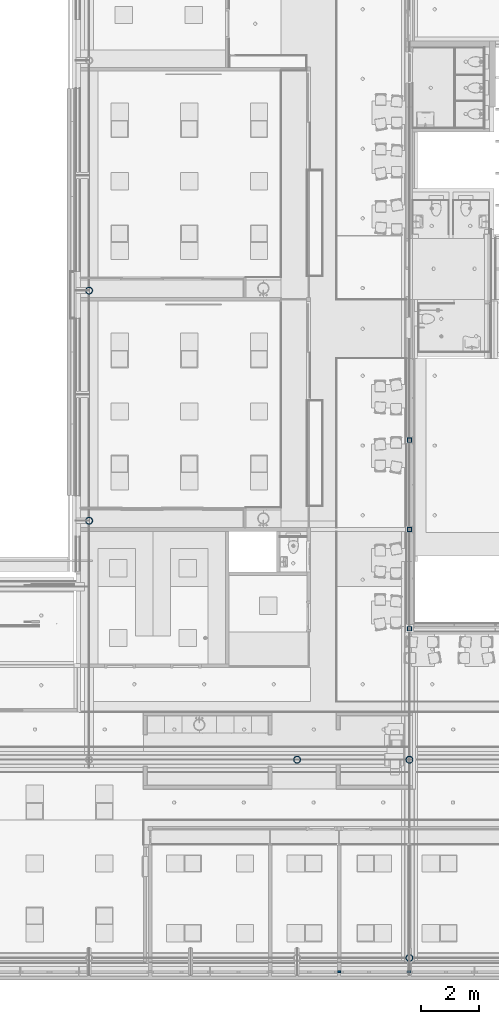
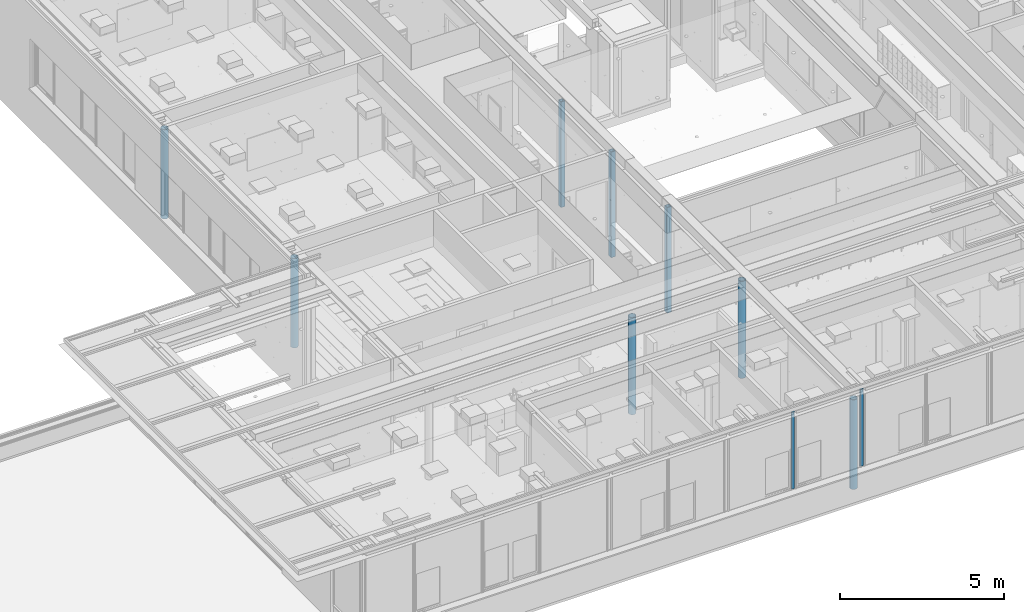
# One storey, part 8 of 260: 10 columns.
"""IFC2X3 building model written with IfcOpenShell, lengths in millimetres."""

from ifc_helpers import new_model, entity, si_unit, converted_unit, derived_unit, money_unit, direction, frame, origin_with_axes, place, context, subcontext, project, spatial, faceted_brep, material, type_object, element, save


model = new_model("IFC2X3")

# Units and contexts
model_context = context("Model", 3, precision=0.01, world=origin_with_axes(), true_north=direction((0.0, 1.0)))
plan_context = context("Plan", 3, precision=0.01, world=origin_with_axes(), true_north=direction((0.0, 1.0)))
body_context = subcontext(model_context, "Body", "Model", "MODEL_VIEW")
ifc_project = project(units=[si_unit("LENGTHUNIT", "METRE", prefix="MILLI"), si_unit("AREAUNIT", "SQUARE_METRE"), si_unit("VOLUMEUNIT", "CUBIC_METRE"), converted_unit("PLANEANGLEUNIT", "DEGREE", entity("IfcPlaneAngleMeasure", 0.0174532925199), si_unit("PLANEANGLEUNIT", "RADIAN"), dimensions=[0, 0, 0, 0, 0, 0, 0]), money_unit("EUR"), converted_unit("TIMEUNIT", "Year", entity("IfcTimeMeasure", 31556926.0), si_unit("TIMEUNIT", "SECOND"), dimensions=[0, 0, 1, 0, 0, 0, 0]), si_unit("MASSUNIT", "GRAM", prefix="KILO"), si_unit("THERMODYNAMICTEMPERATUREUNIT", "DEGREE_CELSIUS"), si_unit("LUMINOUSINTENSITYUNIT", "LUMEN"), si_unit("ENERGYUNIT", "JOULE", prefix="MEGA"), derived_unit("THERMALCONDUCTANCEUNIT", [(si_unit("POWERUNIT", "WATT"), 1), (si_unit("LENGTHUNIT", "METRE"), -1), (si_unit("THERMODYNAMICTEMPERATUREUNIT", "KELVIN"), -1)]), derived_unit("SPECIFICHEATCAPACITYUNIT", [(si_unit("ENERGYUNIT", "JOULE"), 1), (si_unit("MASSUNIT", "GRAM", prefix="KILO"), -1), (si_unit("THERMODYNAMICTEMPERATUREUNIT", "KELVIN"), -1)]), derived_unit("MASSDENSITYUNIT", [(si_unit("MASSUNIT", "GRAM", prefix="KILO"), 1), (si_unit("VOLUMEUNIT", "CUBIC_METRE"), -1)])], contexts=[model_context, plan_context])

# Site, building, storey
site_placement = place(None, origin_with_axes())
site = spatial("IfcSite", under=ifc_project, at=site_placement, Name="Site", CompositionType="ELEMENT")
building_placement = place(site_placement, origin_with_axes())
building = spatial("IfcBuilding", under=site, at=building_placement, Name="Naam gebouw", CompositionType="ELEMENT")
storey_placement = place(building_placement, frame((0.0, 0.0, 3960.0), z_axis=(0.0, 0.0, 1.0), x_axis=(1.0, 0.0, 0.0)))
storey = spatial("IfcBuildingStorey", under=building, at=storey_placement, Name="verdieping", CompositionType="ELEMENT", Elevation=3960.0)

# Columns
ifc_material_1 = material(Name="Metaal - Staal C wit")
column_type_1 = type_object("IfcColumnType", Name="Lucht D245", PredefinedType="COLUMN")
column_1_placement = place(storey_placement, frame((31737.5, 12125.0, -80.0), z_axis=(0.0, 0.0, 1.0), x_axis=(1.0, 0.0, 0.0)))
element("IfcColumn", 1, at=column_1_placement, inside=storey, type_object=column_type_1, material=ifc_material_1, Name="28_kolom ø 273mm", ObjectType="COLUMN", context=body_context, shape_type="Brep", body=[
    faceted_brep([(119.184937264, 27.2031841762, 0.0), (110.143444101, 53.0422871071, 0.0), (110.143444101, 53.0422871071, 3620.0), (119.184937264, 27.2031841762, 3620.0), (122.25, 0.0, 0.0), (119.184937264, -27.2031841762, 0.0), (110.143444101, -53.0422871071, 0.0), (95.5788987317, -76.2216282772, 0.0), (76.2216282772, -95.5788987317, 0.0), (53.0422871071, -110.143444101, 0.0), (27.2031841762, -119.184937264, 0.0), (0.0, -122.25, 0.0), (-27.2031841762, -119.184937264, 0.0), (-53.0422871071, -110.143444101, 0.0), (-76.2216282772, -95.5788987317, 0.0), (-95.5788987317, -76.2216282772, 0.0), (-110.143444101, -53.0422871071, 0.0), (-119.184937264, -27.2031841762, 0.0), (-122.25, 0.0, 0.0), (-119.184937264, 27.2031841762, 0.0), (-110.143444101, 53.0422871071, 0.0), (-95.5788987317, 76.2216282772, 0.0), (-76.2216282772, 95.5788987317, 0.0), (-53.0422871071, 110.143444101, 0.0), (-27.2031841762, 119.184937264, 0.0), (0.0, 122.25, 0.0), (27.2031841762, 119.184937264, 0.0), (53.0422871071, 110.143444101, 0.0), (76.2216282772, 95.5788987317, 0.0), (95.5788987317, 76.2216282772, 0.0), (102.629619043, -27.4995235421, 0.0), (106.25, 0.0, 0.0), (102.629619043, 27.4995235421, 0.0), (92.0151991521, 53.125, 0.0), (75.1300955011, 75.1300955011, 0.0), (53.125, 92.0151991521, 0.0), (27.4995235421, 102.629619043, 0.0), (0.0, 106.25, 0.0), (-27.4995235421, 102.629619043, 0.0), (-53.125, 92.0151991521, 0.0), (-75.1300955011, 75.1300955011, 0.0), (-92.0151991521, 53.125, 0.0), (-102.629619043, 27.4995235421, 0.0), (-106.25, 0.0, 0.0), (-102.629619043, -27.4995235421, 0.0), (-92.0151991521, -53.125, 0.0), (-75.1300955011, -75.1300955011, 0.0), (-53.125, -92.0151991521, 0.0), (-27.4995235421, -102.629619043, 0.0), (0.0, -106.25, 0.0), (27.4995235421, -102.629619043, 0.0), (53.125, -92.0151991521, 0.0), (75.1300955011, -75.1300955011, 0.0), (92.0151991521, -53.125, 0.0), (95.5788987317, 76.2216282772, 3620.0), (76.2216282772, 95.5788987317, 3620.0), (53.0422871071, 110.143444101, 3620.0), (27.2031841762, 119.184937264, 3620.0), (0.0, 122.25, 3620.0), (-27.2031841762, 119.184937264, 3620.0), (-53.0422871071, 110.143444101, 3620.0), (-76.2216282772, 95.5788987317, 3620.0), (-95.5788987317, 76.2216282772, 3620.0), (-110.143444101, 53.0422871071, 3620.0), (-119.184937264, 27.2031841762, 3620.0), (-122.25, 0.0, 3620.0), (-119.184937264, -27.2031841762, 3620.0), (-110.143444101, -53.0422871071, 3620.0), (-95.5788987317, -76.2216282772, 3620.0), (-76.2216282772, -95.5788987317, 3620.0), (-53.0422871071, -110.143444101, 3620.0), (-27.2031841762, -119.184937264, 3620.0), (0.0, -122.25, 3620.0), (27.2031841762, -119.184937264, 3620.0), (53.0422871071, -110.143444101, 3620.0), (76.2216282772, -95.5788987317, 3620.0), (95.5788987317, -76.2216282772, 3620.0), (110.143444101, -53.0422871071, 3620.0), (119.184937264, -27.2031841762, 3620.0), (122.25, 0.0, 3620.0), (102.629619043, -27.4995235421, 3620.0), (92.0151991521, -53.125, 3620.0), (75.1300955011, -75.1300955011, 3620.0), (53.125, -92.0151991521, 3620.0), (27.4995235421, -102.629619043, 3620.0), (0.0, -106.25, 3620.0), (-27.4995235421, -102.629619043, 3620.0), (-53.125, -92.0151991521, 3620.0), (-75.1300955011, -75.1300955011, 3620.0), (-92.0151991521, -53.125, 3620.0), (-102.629619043, -27.4995235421, 3620.0), (-106.25, 0.0, 3620.0), (-102.629619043, 27.4995235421, 3620.0), (-92.0151991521, 53.125, 3620.0), (-75.1300955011, 75.1300955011, 3620.0), (-53.125, 92.0151991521, 3620.0), (-27.4995235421, 102.629619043, 3620.0), (0.0, 106.25, 3620.0), (27.4995235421, 102.629619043, 3620.0), (53.125, 92.0151991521, 3620.0), (75.1300955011, 75.1300955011, 3620.0), (92.0151991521, 53.125, 3620.0), (102.629619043, 27.4995235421, 3620.0), (106.25, 0.0, 3620.0)], [[[0, 1, 2, 3]], [[0, 4, 5, 6, 7, 8, 9, 10, 11, 12, 13, 14, 15, 16, 17, 18, 19, 20, 21, 22, 23, 24, 25, 26, 27, 28, 29, 1], [30, 31, 32, 33, 34, 35, 36, 37, 38, 39, 40, 41, 42, 43, 44, 45, 46, 47, 48, 49, 50, 51, 52, 53]], [[1, 29, 54, 2]], [[3, 2, 54, 55, 56, 57, 58, 59, 60, 61, 62, 63, 64, 65, 66, 67, 68, 69, 70, 71, 72, 73, 74, 75, 76, 77, 78, 79], [80, 81, 82, 83, 84, 85, 86, 87, 88, 89, 90, 91, 92, 93, 94, 95, 96, 97, 98, 99, 100, 101, 102, 103]], [[4, 0, 3, 79]], [[5, 4, 79, 78]], [[6, 5, 78, 77]], [[7, 6, 77, 76]], [[8, 7, 76, 75]], [[9, 8, 75, 74]], [[10, 9, 74, 73]], [[11, 10, 73, 72]], [[12, 11, 72, 71]], [[13, 12, 71, 70]], [[14, 13, 70, 69]], [[15, 14, 69, 68]], [[16, 15, 68, 67]], [[17, 16, 67, 66]], [[18, 17, 66, 65]], [[19, 18, 65, 64]], [[20, 19, 64, 63]], [[21, 20, 63, 62]], [[22, 21, 62, 61]], [[23, 22, 61, 60]], [[24, 23, 60, 59]], [[25, 24, 59, 58]], [[26, 25, 58, 57]], [[27, 26, 57, 56]], [[28, 27, 56, 55]], [[29, 28, 55, 54]], [[31, 30, 80, 103]], [[32, 31, 103, 102]], [[33, 32, 102, 101]], [[34, 33, 101, 100]], [[35, 34, 100, 99]], [[36, 35, 99, 98]], [[37, 36, 98, 97]], [[38, 37, 97, 96]], [[39, 38, 96, 95]], [[40, 39, 95, 94]], [[41, 40, 94, 93]], [[42, 41, 93, 92]], [[43, 42, 92, 91]], [[44, 43, 91, 90]], [[45, 44, 90, 89]], [[46, 45, 89, 88]], [[47, 46, 88, 87]], [[48, 47, 87, 86]], [[49, 48, 86, 85]], [[50, 49, 85, 84]], [[51, 50, 84, 83]], [[52, 51, 83, 82]], [[53, 52, 82, 81]], [[30, 53, 81, 80]]]),
])
column_2_placement = place(storey_placement, frame((35605.0, 5300.0, -80.0), z_axis=(0.0, 0.0, 1.0), x_axis=(1.0, 0.0, 0.0)))
element("IfcColumn", 2, at=column_2_placement, inside=storey, type_object=column_type_1, material=ifc_material_1, Name="28_kolom ø 273mm", ObjectType="COLUMN", context=body_context, shape_type="Brep", body=[
    faceted_brep([(119.184937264, 27.2031841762, 0.0), (110.143444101, 53.0422871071, 0.0), (110.143444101, 53.0422871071, 3340.0), (119.184937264, 27.2031841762, 3340.0), (122.25, 0.0, 0.0), (119.184937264, -27.2031841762, 0.0), (110.143444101, -53.0422871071, 0.0), (95.5788987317, -76.2216282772, 0.0), (76.2216282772, -95.5788987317, 0.0), (53.0422871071, -110.143444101, 0.0), (27.2031841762, -119.184937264, 0.0), (0.0, -122.25, 0.0), (-27.2031841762, -119.184937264, 0.0), (-53.0422871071, -110.143444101, 0.0), (-76.2216282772, -95.5788987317, 0.0), (-95.5788987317, -76.2216282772, 0.0), (-110.143444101, -53.0422871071, 0.0), (-119.184937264, -27.2031841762, 0.0), (-122.25, 0.0, 0.0), (-119.184937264, 27.2031841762, 0.0), (-110.143444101, 53.0422871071, 0.0), (-95.5788987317, 76.2216282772, 0.0), (-76.2216282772, 95.5788987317, 0.0), (-53.0422871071, 110.143444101, 0.0), (-27.2031841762, 119.184937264, 0.0), (0.0, 122.25, 0.0), (27.2031841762, 119.184937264, 0.0), (53.0422871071, 110.143444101, 0.0), (76.2216282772, 95.5788987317, 0.0), (95.5788987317, 76.2216282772, 0.0), (102.629619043, -27.4995235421, 0.0), (106.25, 0.0, 0.0), (102.629619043, 27.4995235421, 0.0), (92.0151991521, 53.125, 0.0), (75.1300955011, 75.1300955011, 0.0), (53.125, 92.0151991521, 0.0), (27.4995235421, 102.629619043, 0.0), (0.0, 106.25, 0.0), (-27.4995235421, 102.629619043, 0.0), (-53.125, 92.0151991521, 0.0), (-75.1300955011, 75.1300955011, 0.0), (-92.0151991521, 53.125, 0.0), (-102.629619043, 27.4995235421, 0.0), (-106.25, 0.0, 0.0), (-102.629619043, -27.4995235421, 0.0), (-92.0151991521, -53.125, 0.0), (-75.1300955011, -75.1300955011, 0.0), (-53.125, -92.0151991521, 0.0), (-27.4995235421, -102.629619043, 0.0), (0.0, -106.25, 0.0), (27.4995235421, -102.629619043, 0.0), (53.125, -92.0151991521, 0.0), (75.1300955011, -75.1300955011, 0.0), (92.0151991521, -53.125, 0.0), (95.5788987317, 76.2216282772, 3340.0), (76.2216282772, 95.5788987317, 3340.0), (53.0422871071, 110.143444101, 3340.0), (27.2031841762, 119.184937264, 3340.0), (0.0, 122.25, 3340.0), (-27.2031841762, 119.184937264, 3340.0), (-53.0422871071, 110.143444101, 3340.0), (-76.2216282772, 95.5788987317, 3340.0), (-95.5788987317, 76.2216282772, 3340.0), (-110.143444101, 53.0422871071, 3340.0), (-119.184937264, 27.2031841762, 3340.0), (-122.25, 0.0, 3340.0), (-119.184937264, -27.2031841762, 3340.0), (-110.143444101, -53.0422871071, 3340.0), (-95.5788987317, -76.2216282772, 3340.0), (-76.2216282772, -95.5788987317, 3340.0), (-53.0422871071, -110.143444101, 3340.0), (-27.2031841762, -119.184937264, 3340.0), (0.0, -122.25, 3340.0), (27.2031841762, -119.184937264, 3340.0), (53.0422871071, -110.143444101, 3340.0), (76.2216282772, -95.5788987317, 3340.0), (95.5788987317, -76.2216282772, 3340.0), (110.143444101, -53.0422871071, 3340.0), (119.184937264, -27.2031841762, 3340.0), (122.25, 0.0, 3340.0), (102.629619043, -27.4995235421, 3340.0), (92.0151991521, -53.125, 3340.0), (75.1300955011, -75.1300955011, 3340.0), (53.125, -92.0151991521, 3340.0), (27.4995235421, -102.629619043, 3340.0), (0.0, -106.25, 3340.0), (-27.4995235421, -102.629619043, 3340.0), (-53.125, -92.0151991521, 3340.0), (-75.1300955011, -75.1300955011, 3340.0), (-92.0151991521, -53.125, 3340.0), (-102.629619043, -27.4995235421, 3340.0), (-106.25, 0.0, 3340.0), (-102.629619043, 27.4995235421, 3340.0), (-92.0151991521, 53.125, 3340.0), (-75.1300955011, 75.1300955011, 3340.0), (-53.125, 92.0151991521, 3340.0), (-27.4995235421, 102.629619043, 3340.0), (0.0, 106.25, 3340.0), (27.4995235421, 102.629619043, 3340.0), (53.125, 92.0151991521, 3340.0), (75.1300955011, 75.1300955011, 3340.0), (92.0151991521, 53.125, 3340.0), (102.629619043, 27.4995235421, 3340.0), (106.25, 0.0, 3340.0)], [[[0, 1, 2, 3]], [[0, 4, 5, 6, 7, 8, 9, 10, 11, 12, 13, 14, 15, 16, 17, 18, 19, 20, 21, 22, 23, 24, 25, 26, 27, 28, 29, 1], [30, 31, 32, 33, 34, 35, 36, 37, 38, 39, 40, 41, 42, 43, 44, 45, 46, 47, 48, 49, 50, 51, 52, 53]], [[1, 29, 54, 2]], [[3, 2, 54, 55, 56, 57, 58, 59, 60, 61, 62, 63, 64, 65, 66, 67, 68, 69, 70, 71, 72, 73, 74, 75, 76, 77, 78, 79], [80, 81, 82, 83, 84, 85, 86, 87, 88, 89, 90, 91, 92, 93, 94, 95, 96, 97, 98, 99, 100, 101, 102, 103]], [[4, 0, 3, 79]], [[5, 4, 79, 78]], [[6, 5, 78, 77]], [[7, 6, 77, 76]], [[8, 7, 76, 75]], [[9, 8, 75, 74]], [[10, 9, 74, 73]], [[11, 10, 73, 72]], [[12, 11, 72, 71]], [[13, 12, 71, 70]], [[14, 13, 70, 69]], [[15, 14, 69, 68]], [[16, 15, 68, 67]], [[17, 16, 67, 66]], [[18, 17, 66, 65]], [[19, 18, 65, 64]], [[20, 19, 64, 63]], [[21, 20, 63, 62]], [[22, 21, 62, 61]], [[23, 22, 61, 60]], [[24, 23, 60, 59]], [[25, 24, 59, 58]], [[26, 25, 58, 57]], [[27, 26, 57, 56]], [[28, 27, 56, 55]], [[29, 28, 55, 54]], [[31, 30, 80, 103]], [[32, 31, 103, 102]], [[33, 32, 102, 101]], [[34, 33, 101, 100]], [[35, 34, 100, 99]], [[36, 35, 99, 98]], [[37, 36, 98, 97]], [[38, 37, 97, 96]], [[39, 38, 96, 95]], [[40, 39, 95, 94]], [[41, 40, 94, 93]], [[42, 41, 93, 92]], [[43, 42, 92, 91]], [[44, 43, 91, 90]], [[45, 44, 90, 89]], [[46, 45, 89, 88]], [[47, 46, 88, 87]], [[48, 47, 87, 86]], [[49, 48, 86, 85]], [[50, 49, 85, 84]], [[51, 50, 84, 83]], [[52, 51, 83, 82]], [[53, 52, 82, 81]], [[30, 53, 81, 80]]]),
])
column_3_placement = place(storey_placement, frame((24575.0, 20350.0, -70.0), z_axis=(0.0, 0.0, 1.0), x_axis=(1.0, 0.0, 0.0)))
element("IfcColumn", 3, at=column_3_placement, inside=storey, type_object=column_type_1, material=ifc_material_1, Name="28_kolom ø 273mm", ObjectType="COLUMN", context=body_context, shape_type="Brep", body=[
    faceted_brep([(-122.25, 0.0, 0.0), (-119.184937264, -27.2031841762, 0.0), (-119.184937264, -27.2031841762, 3330.0), (-122.25, 0.0, 3330.0), (-119.184937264, 27.2031841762, 0.0), (-110.143444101, 53.0422871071, 0.0), (-95.5788987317, 76.2216282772, 0.0), (-76.2216282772, 95.5788987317, 0.0), (-53.0422871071, 110.143444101, 0.0), (-27.2031841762, 119.184937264, 0.0), (0.0, 122.25, 0.0), (27.2031841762, 119.184937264, 0.0), (53.0422871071, 110.143444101, 0.0), (76.2216282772, 95.5788987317, 0.0), (95.5788987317, 76.2216282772, 0.0), (110.143444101, 53.0422871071, 0.0), (119.184937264, 27.2031841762, 0.0), (122.25, 0.0, 0.0), (119.184937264, -27.2031841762, 0.0), (110.143444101, -53.0422871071, 0.0), (95.5788987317, -76.2216282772, 0.0), (76.2216282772, -95.5788987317, 0.0), (53.0422871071, -110.143444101, 0.0), (27.2031841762, -119.184937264, 0.0), (0.0, -122.25, 0.0), (-27.2031841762, -119.184937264, 0.0), (-53.0422871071, -110.143444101, 0.0), (-76.2216282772, -95.5788987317, 0.0), (-95.5788987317, -76.2216282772, 0.0), (-110.143444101, -53.0422871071, 0.0), (-106.25, 0.0, 0.0), (-102.629619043, -27.4995235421, 0.0), (-92.0151991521, -53.125, 0.0), (-75.1300955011, -75.1300955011, 0.0), (-53.125, -92.0151991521, 0.0), (-27.4995235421, -102.629619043, 0.0), (0.0, -106.25, 0.0), (27.4995235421, -102.629619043, 0.0), (53.125, -92.0151991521, 0.0), (75.1300955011, -75.1300955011, 0.0), (92.0151991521, -53.125, 0.0), (102.629619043, -27.4995235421, 0.0), (106.25, 0.0, 0.0), (102.629619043, 27.4995235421, 0.0), (92.0151991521, 53.125, 0.0), (75.1300955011, 75.1300955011, 0.0), (53.125, 92.0151991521, 0.0), (27.4995235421, 102.629619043, 0.0), (0.0, 106.25, 0.0), (-27.4995235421, 102.629619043, 0.0), (-53.125, 92.0151991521, 0.0), (-75.1300955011, 75.1300955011, 0.0), (-92.0151991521, 53.125, 0.0), (-102.629619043, 27.4995235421, 0.0), (-110.143444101, -53.0422871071, 3330.0), (-95.5788987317, -76.2216282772, 3330.0), (-76.2216282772, -95.5788987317, 3330.0), (-53.0422871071, -110.143444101, 3330.0), (-27.2031841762, -119.184937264, 3330.0), (0.0, -122.25, 3330.0), (27.2031841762, -119.184937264, 3330.0), (53.0422871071, -110.143444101, 3330.0), (76.2216282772, -95.5788987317, 3330.0), (95.5788987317, -76.2216282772, 3330.0), (110.143444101, -53.0422871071, 3330.0), (119.184937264, -27.2031841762, 3330.0), (122.25, 0.0, 3330.0), (119.184937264, 27.2031841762, 3330.0), (110.143444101, 53.0422871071, 3330.0), (95.5788987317, 76.2216282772, 3330.0), (76.2216282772, 95.5788987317, 3330.0), (53.0422871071, 110.143444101, 3330.0), (27.2031841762, 119.184937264, 3330.0), (0.0, 122.25, 3330.0), (-27.2031841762, 119.184937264, 3330.0), (-53.0422871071, 110.143444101, 3330.0), (-76.2216282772, 95.5788987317, 3330.0), (-95.5788987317, 76.2216282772, 3330.0), (-110.143444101, 53.0422871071, 3330.0), (-119.184937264, 27.2031841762, 3330.0), (-106.25, 0.0, 3330.0), (-102.629619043, 27.4995235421, 3330.0), (-92.0151991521, 53.125, 3330.0), (-75.1300955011, 75.1300955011, 3330.0), (-53.125, 92.0151991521, 3330.0), (-27.4995235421, 102.629619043, 3330.0), (0.0, 106.25, 3330.0), (27.4995235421, 102.629619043, 3330.0), (53.125, 92.0151991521, 3330.0), (75.1300955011, 75.1300955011, 3330.0), (92.0151991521, 53.125, 3330.0), (102.629619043, 27.4995235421, 3330.0), (106.25, 0.0, 3330.0), (102.629619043, -27.4995235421, 3330.0), (92.0151991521, -53.125, 3330.0), (75.1300955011, -75.1300955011, 3330.0), (53.125, -92.0151991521, 3330.0), (27.4995235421, -102.629619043, 3330.0), (0.0, -106.25, 3330.0), (-27.4995235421, -102.629619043, 3330.0), (-53.125, -92.0151991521, 3330.0), (-75.1300955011, -75.1300955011, 3330.0), (-92.0151991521, -53.125, 3330.0), (-102.629619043, -27.4995235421, 3330.0)], [[[0, 1, 2, 3]], [[0, 4, 5, 6, 7, 8, 9, 10, 11, 12, 13, 14, 15, 16, 17, 18, 19, 20, 21, 22, 23, 24, 25, 26, 27, 28, 29, 1], [30, 31, 32, 33, 34, 35, 36, 37, 38, 39, 40, 41, 42, 43, 44, 45, 46, 47, 48, 49, 50, 51, 52, 53]], [[1, 29, 54, 2]], [[3, 2, 54, 55, 56, 57, 58, 59, 60, 61, 62, 63, 64, 65, 66, 67, 68, 69, 70, 71, 72, 73, 74, 75, 76, 77, 78, 79], [80, 81, 82, 83, 84, 85, 86, 87, 88, 89, 90, 91, 92, 93, 94, 95, 96, 97, 98, 99, 100, 101, 102, 103]], [[4, 0, 3, 79]], [[5, 4, 79, 78]], [[6, 5, 78, 77]], [[7, 6, 77, 76]], [[8, 7, 76, 75]], [[9, 8, 75, 74]], [[10, 9, 74, 73]], [[11, 10, 73, 72]], [[12, 11, 72, 71]], [[13, 12, 71, 70]], [[14, 13, 70, 69]], [[15, 14, 69, 68]], [[16, 15, 68, 67]], [[17, 16, 67, 66]], [[18, 17, 66, 65]], [[19, 18, 65, 64]], [[20, 19, 64, 63]], [[21, 20, 63, 62]], [[22, 21, 62, 61]], [[23, 22, 61, 60]], [[24, 23, 60, 59]], [[25, 24, 59, 58]], [[26, 25, 58, 57]], [[27, 26, 57, 56]], [[28, 27, 56, 55]], [[29, 28, 55, 54]], [[31, 30, 80, 103]], [[32, 31, 103, 102]], [[33, 32, 102, 101]], [[34, 33, 101, 100]], [[35, 34, 100, 99]], [[36, 35, 99, 98]], [[37, 36, 98, 97]], [[38, 37, 97, 96]], [[39, 38, 96, 95]], [[40, 39, 95, 94]], [[41, 40, 94, 93]], [[42, 41, 93, 92]], [[43, 42, 92, 91]], [[44, 43, 91, 90]], [[45, 44, 90, 89]], [[46, 45, 89, 88]], [[47, 46, 88, 87]], [[48, 47, 87, 86]], [[49, 48, 86, 85]], [[50, 49, 85, 84]], [[51, 50, 84, 83]], [[52, 51, 83, 82]], [[53, 52, 82, 81]], [[30, 53, 81, 80]]]),
])
column_4_placement = place(storey_placement, frame((24575.0, 28275.0, -70.0), z_axis=(0.0, 0.0, 1.0), x_axis=(1.0, 0.0, 0.0)))
element("IfcColumn", 4, at=column_4_placement, inside=storey, type_object=column_type_1, material=ifc_material_1, Name="28_kolom ø 273mm", ObjectType="COLUMN", context=body_context, shape_type="Brep", body=[
    faceted_brep([(-122.25, 0.0, 0.0), (-119.184937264, -27.2031841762, 0.0), (-119.184937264, -27.2031841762, 3330.0), (-122.25, 0.0, 3330.0), (-119.184937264, 27.2031841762, 0.0), (-110.143444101, 53.0422871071, 0.0), (-95.5788987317, 76.2216282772, 0.0), (-76.2216282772, 95.5788987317, 0.0), (-53.0422871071, 110.143444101, 0.0), (-27.2031841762, 119.184937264, 0.0), (0.0, 122.25, 0.0), (27.2031841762, 119.184937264, 0.0), (53.0422871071, 110.143444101, 0.0), (76.2216282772, 95.5788987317, 0.0), (95.5788987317, 76.2216282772, 0.0), (110.143444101, 53.0422871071, 0.0), (119.184937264, 27.2031841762, 0.0), (122.25, 0.0, 0.0), (119.184937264, -27.2031841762, 0.0), (110.143444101, -53.0422871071, 0.0), (95.5788987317, -76.2216282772, 0.0), (76.2216282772, -95.5788987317, 0.0), (53.0422871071, -110.143444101, 0.0), (27.2031841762, -119.184937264, 0.0), (0.0, -122.25, 0.0), (-27.2031841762, -119.184937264, 0.0), (-53.0422871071, -110.143444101, 0.0), (-76.2216282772, -95.5788987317, 0.0), (-95.5788987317, -76.2216282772, 0.0), (-110.143444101, -53.0422871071, 0.0), (-106.25, 0.0, 0.0), (-102.629619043, -27.4995235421, 0.0), (-92.0151991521, -53.125, 0.0), (-75.1300955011, -75.1300955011, 0.0), (-53.125, -92.0151991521, 0.0), (-27.4995235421, -102.629619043, 0.0), (0.0, -106.25, 0.0), (27.4995235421, -102.629619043, 0.0), (53.125, -92.0151991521, 0.0), (75.1300955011, -75.1300955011, 0.0), (92.0151991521, -53.125, 0.0), (102.629619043, -27.4995235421, 0.0), (106.25, 0.0, 0.0), (102.629619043, 27.4995235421, 0.0), (92.0151991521, 53.125, 0.0), (75.1300955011, 75.1300955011, 0.0), (53.125, 92.0151991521, 0.0), (27.4995235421, 102.629619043, 0.0), (0.0, 106.25, 0.0), (-27.4995235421, 102.629619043, 0.0), (-53.125, 92.0151991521, 0.0), (-75.1300955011, 75.1300955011, 0.0), (-92.0151991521, 53.125, 0.0), (-102.629619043, 27.4995235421, 0.0), (-110.143444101, -53.0422871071, 3330.0), (-95.5788987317, -76.2216282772, 3330.0), (-76.2216282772, -95.5788987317, 3330.0), (-53.0422871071, -110.143444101, 3330.0), (-27.2031841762, -119.184937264, 3330.0), (0.0, -122.25, 3330.0), (27.2031841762, -119.184937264, 3330.0), (53.0422871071, -110.143444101, 3330.0), (76.2216282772, -95.5788987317, 3330.0), (95.5788987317, -76.2216282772, 3330.0), (110.143444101, -53.0422871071, 3330.0), (119.184937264, -27.2031841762, 3330.0), (122.25, 0.0, 3330.0), (119.184937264, 27.2031841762, 3330.0), (110.143444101, 53.0422871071, 3330.0), (95.5788987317, 76.2216282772, 3330.0), (76.2216282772, 95.5788987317, 3330.0), (53.0422871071, 110.143444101, 3330.0), (27.2031841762, 119.184937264, 3330.0), (0.0, 122.25, 3330.0), (-27.2031841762, 119.184937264, 3330.0), (-53.0422871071, 110.143444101, 3330.0), (-76.2216282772, 95.5788987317, 3330.0), (-95.5788987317, 76.2216282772, 3330.0), (-110.143444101, 53.0422871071, 3330.0), (-119.184937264, 27.2031841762, 3330.0), (-106.25, 0.0, 3330.0), (-102.629619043, 27.4995235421, 3330.0), (-92.0151991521, 53.125, 3330.0), (-75.1300955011, 75.1300955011, 3330.0), (-53.125, 92.0151991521, 3330.0), (-27.4995235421, 102.629619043, 3330.0), (0.0, 106.25, 3330.0), (27.4995235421, 102.629619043, 3330.0), (53.125, 92.0151991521, 3330.0), (75.1300955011, 75.1300955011, 3330.0), (92.0151991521, 53.125, 3330.0), (102.629619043, 27.4995235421, 3330.0), (106.25, 0.0, 3330.0), (102.629619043, -27.4995235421, 3330.0), (92.0151991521, -53.125, 3330.0), (75.1300955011, -75.1300955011, 3330.0), (53.125, -92.0151991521, 3330.0), (27.4995235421, -102.629619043, 3330.0), (0.0, -106.25, 3330.0), (-27.4995235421, -102.629619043, 3330.0), (-53.125, -92.0151991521, 3330.0), (-75.1300955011, -75.1300955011, 3330.0), (-92.0151991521, -53.125, 3330.0), (-102.629619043, -27.4995235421, 3330.0)], [[[0, 1, 2, 3]], [[0, 4, 5, 6, 7, 8, 9, 10, 11, 12, 13, 14, 15, 16, 17, 18, 19, 20, 21, 22, 23, 24, 25, 26, 27, 28, 29, 1], [30, 31, 32, 33, 34, 35, 36, 37, 38, 39, 40, 41, 42, 43, 44, 45, 46, 47, 48, 49, 50, 51, 52, 53]], [[1, 29, 54, 2]], [[3, 2, 54, 55, 56, 57, 58, 59, 60, 61, 62, 63, 64, 65, 66, 67, 68, 69, 70, 71, 72, 73, 74, 75, 76, 77, 78, 79], [80, 81, 82, 83, 84, 85, 86, 87, 88, 89, 90, 91, 92, 93, 94, 95, 96, 97, 98, 99, 100, 101, 102, 103]], [[4, 0, 3, 79]], [[5, 4, 79, 78]], [[6, 5, 78, 77]], [[7, 6, 77, 76]], [[8, 7, 76, 75]], [[9, 8, 75, 74]], [[10, 9, 74, 73]], [[11, 10, 73, 72]], [[12, 11, 72, 71]], [[13, 12, 71, 70]], [[14, 13, 70, 69]], [[15, 14, 69, 68]], [[16, 15, 68, 67]], [[17, 16, 67, 66]], [[18, 17, 66, 65]], [[19, 18, 65, 64]], [[20, 19, 64, 63]], [[21, 20, 63, 62]], [[22, 21, 62, 61]], [[23, 22, 61, 60]], [[24, 23, 60, 59]], [[25, 24, 59, 58]], [[26, 25, 58, 57]], [[27, 26, 57, 56]], [[28, 27, 56, 55]], [[29, 28, 55, 54]], [[31, 30, 80, 103]], [[32, 31, 103, 102]], [[33, 32, 102, 101]], [[34, 33, 101, 100]], [[35, 34, 100, 99]], [[36, 35, 99, 98]], [[37, 36, 98, 97]], [[38, 37, 97, 96]], [[39, 38, 96, 95]], [[40, 39, 95, 94]], [[41, 40, 94, 93]], [[42, 41, 93, 92]], [[43, 42, 92, 91]], [[44, 43, 91, 90]], [[45, 44, 90, 89]], [[46, 45, 89, 88]], [[47, 46, 88, 87]], [[48, 47, 87, 86]], [[49, 48, 86, 85]], [[50, 49, 85, 84]], [[51, 50, 84, 83]], [[52, 51, 83, 82]], [[53, 52, 82, 81]], [[30, 53, 81, 80]]]),
])
column_5_placement = place(storey_placement, frame((35605.0, 12125.0, -80.0), z_axis=(0.0, 0.0, 1.0), x_axis=(1.0, 0.0, 0.0)))
element("IfcColumn", 5, at=column_5_placement, inside=storey, type_object=column_type_1, material=ifc_material_1, Name="28_kolom ø 273mm", ObjectType="COLUMN", context=body_context, shape_type="Brep", body=[
    faceted_brep([(119.184937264, 27.2031841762, 0.0), (110.143444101, 53.0422871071, 0.0), (110.143444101, 53.0422871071, 3620.0), (119.184937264, 27.2031841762, 3620.0), (122.25, 0.0, 0.0), (119.184937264, -27.2031841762, 0.0), (110.143444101, -53.0422871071, 0.0), (95.5788987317, -76.2216282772, 0.0), (76.2216282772, -95.5788987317, 0.0), (53.0422871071, -110.143444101, 0.0), (27.2031841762, -119.184937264, 0.0), (0.0, -122.25, 0.0), (-27.2031841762, -119.184937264, 0.0), (-53.0422871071, -110.143444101, 0.0), (-76.2216282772, -95.5788987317, 0.0), (-95.5788987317, -76.2216282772, 0.0), (-110.143444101, -53.0422871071, 0.0), (-119.184937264, -27.2031841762, 0.0), (-122.25, 0.0, 0.0), (-119.184937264, 27.2031841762, 0.0), (-110.143444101, 53.0422871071, 0.0), (-95.5788987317, 76.2216282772, 0.0), (-76.2216282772, 95.5788987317, 0.0), (-53.0422871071, 110.143444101, 0.0), (-27.2031841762, 119.184937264, 0.0), (0.0, 122.25, 0.0), (27.2031841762, 119.184937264, 0.0), (53.0422871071, 110.143444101, 0.0), (76.2216282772, 95.5788987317, 0.0), (95.5788987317, 76.2216282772, 0.0), (102.629619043, -27.4995235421, 0.0), (106.25, 0.0, 0.0), (102.629619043, 27.4995235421, 0.0), (92.0151991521, 53.125, 0.0), (75.1300955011, 75.1300955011, 0.0), (53.125, 92.0151991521, 0.0), (27.4995235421, 102.629619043, 0.0), (0.0, 106.25, 0.0), (-27.4995235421, 102.629619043, 0.0), (-53.125, 92.0151991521, 0.0), (-75.1300955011, 75.1300955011, 0.0), (-92.0151991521, 53.125, 0.0), (-102.629619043, 27.4995235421, 0.0), (-106.25, 0.0, 0.0), (-102.629619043, -27.4995235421, 0.0), (-92.0151991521, -53.125, 0.0), (-75.1300955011, -75.1300955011, 0.0), (-53.125, -92.0151991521, 0.0), (-27.4995235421, -102.629619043, 0.0), (0.0, -106.25, 0.0), (27.4995235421, -102.629619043, 0.0), (53.125, -92.0151991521, 0.0), (75.1300955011, -75.1300955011, 0.0), (92.0151991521, -53.125, 0.0), (95.5788987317, 76.2216282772, 3620.0), (76.2216282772, 95.5788987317, 3620.0), (53.0422871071, 110.143444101, 3620.0), (27.2031841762, 119.184937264, 3620.0), (0.0, 122.25, 3620.0), (-27.2031841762, 119.184937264, 3620.0), (-53.0422871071, 110.143444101, 3620.0), (-76.2216282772, 95.5788987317, 3620.0), (-95.5788987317, 76.2216282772, 3620.0), (-110.143444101, 53.0422871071, 3620.0), (-119.184937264, 27.2031841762, 3620.0), (-122.25, 0.0, 3620.0), (-119.184937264, -27.2031841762, 3620.0), (-110.143444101, -53.0422871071, 3620.0), (-95.5788987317, -76.2216282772, 3620.0), (-76.2216282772, -95.5788987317, 3620.0), (-53.0422871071, -110.143444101, 3620.0), (-27.2031841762, -119.184937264, 3620.0), (0.0, -122.25, 3620.0), (27.2031841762, -119.184937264, 3620.0), (53.0422871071, -110.143444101, 3620.0), (76.2216282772, -95.5788987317, 3620.0), (95.5788987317, -76.2216282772, 3620.0), (110.143444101, -53.0422871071, 3620.0), (119.184937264, -27.2031841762, 3620.0), (122.25, 0.0, 3620.0), (102.629619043, -27.4995235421, 3620.0), (92.0151991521, -53.125, 3620.0), (75.1300955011, -75.1300955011, 3620.0), (53.125, -92.0151991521, 3620.0), (27.4995235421, -102.629619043, 3620.0), (0.0, -106.25, 3620.0), (-27.4995235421, -102.629619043, 3620.0), (-53.125, -92.0151991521, 3620.0), (-75.1300955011, -75.1300955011, 3620.0), (-92.0151991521, -53.125, 3620.0), (-102.629619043, -27.4995235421, 3620.0), (-106.25, 0.0, 3620.0), (-102.629619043, 27.4995235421, 3620.0), (-92.0151991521, 53.125, 3620.0), (-75.1300955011, 75.1300955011, 3620.0), (-53.125, 92.0151991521, 3620.0), (-27.4995235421, 102.629619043, 3620.0), (0.0, 106.25, 3620.0), (27.4995235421, 102.629619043, 3620.0), (53.125, 92.0151991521, 3620.0), (75.1300955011, 75.1300955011, 3620.0), (92.0151991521, 53.125, 3620.0), (102.629619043, 27.4995235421, 3620.0), (106.25, 0.0, 3620.0)], [[[0, 1, 2, 3]], [[0, 4, 5, 6, 7, 8, 9, 10, 11, 12, 13, 14, 15, 16, 17, 18, 19, 20, 21, 22, 23, 24, 25, 26, 27, 28, 29, 1], [30, 31, 32, 33, 34, 35, 36, 37, 38, 39, 40, 41, 42, 43, 44, 45, 46, 47, 48, 49, 50, 51, 52, 53]], [[1, 29, 54, 2]], [[3, 2, 54, 55, 56, 57, 58, 59, 60, 61, 62, 63, 64, 65, 66, 67, 68, 69, 70, 71, 72, 73, 74, 75, 76, 77, 78, 79], [80, 81, 82, 83, 84, 85, 86, 87, 88, 89, 90, 91, 92, 93, 94, 95, 96, 97, 98, 99, 100, 101, 102, 103]], [[4, 0, 3, 79]], [[5, 4, 79, 78]], [[6, 5, 78, 77]], [[7, 6, 77, 76]], [[8, 7, 76, 75]], [[9, 8, 75, 74]], [[10, 9, 74, 73]], [[11, 10, 73, 72]], [[12, 11, 72, 71]], [[13, 12, 71, 70]], [[14, 13, 70, 69]], [[15, 14, 69, 68]], [[16, 15, 68, 67]], [[17, 16, 67, 66]], [[18, 17, 66, 65]], [[19, 18, 65, 64]], [[20, 19, 64, 63]], [[21, 20, 63, 62]], [[22, 21, 62, 61]], [[23, 22, 61, 60]], [[24, 23, 60, 59]], [[25, 24, 59, 58]], [[26, 25, 58, 57]], [[27, 26, 57, 56]], [[28, 27, 56, 55]], [[29, 28, 55, 54]], [[31, 30, 80, 103]], [[32, 31, 103, 102]], [[33, 32, 102, 101]], [[34, 33, 101, 100]], [[35, 34, 100, 99]], [[36, 35, 99, 98]], [[37, 36, 98, 97]], [[38, 37, 97, 96]], [[39, 38, 96, 95]], [[40, 39, 95, 94]], [[41, 40, 94, 93]], [[42, 41, 93, 92]], [[43, 42, 92, 91]], [[44, 43, 91, 90]], [[45, 44, 90, 89]], [[46, 45, 89, 88]], [[47, 46, 88, 87]], [[48, 47, 87, 86]], [[49, 48, 86, 85]], [[50, 49, 85, 84]], [[51, 50, 84, 83]], [[52, 51, 83, 82]], [[53, 52, 82, 81]], [[30, 53, 81, 80]]]),
])
column_type_2 = type_object("IfcColumnType", Name="Lucht 150 x 150", PredefinedType="COLUMN")
for number, where, z_axis, x_axis, name in (
    (6, (35605.0, 16634.99997, -400.0), (0.0, 0.0, 1.0), (1.0, 0.0, 0.0), "28_kolom koker"),
    (7, (35605.0, 20050.0, -400.0), (0.0, 0.0, 1.0), (1.0, 0.0, 0.0), "28_kolom koker"),
    (8, (35605.0, 23125.0, -400.0), (0.0, 0.0, 1.0), (1.0, 0.0, 0.0), "28_kolom koker"),
):
    element("IfcColumn", number, at=place(storey_placement, frame(where, z_axis=z_axis, x_axis=x_axis)), inside=storey, type_object=column_type_2, material=ifc_material_1, Name=name, ObjectType="COLUMN", context=body_context, shape_type="Brep", body=[
        faceted_brep([(75.0, 75.0, 0.0), (-75.0, 75.0, 0.0), (-75.0, 75.0, 3940.0), (75.0, 75.0, 3940.0), (75.0, -75.0, 0.0), (-75.0, -75.0, 0.0), (-65.0, -65.0, 0.0), (65.0, -65.0, 0.0), (65.0, 65.0, 0.0), (-65.0, 65.0, 0.0), (-75.0, -75.0, 3940.0), (75.0, -75.0, 3940.0), (-65.0, -65.0, 3940.0), (-65.0, 65.0, 3940.0), (65.0, 65.0, 3940.0), (65.0, -65.0, 3940.0)], [[[0, 1, 2, 3]], [[0, 4, 5, 1], [6, 7, 8, 9]], [[1, 5, 10, 2]], [[3, 2, 10, 11], [12, 13, 14, 15]], [[4, 0, 3, 11]], [[5, 4, 11, 10]], [[7, 6, 12, 15]], [[8, 7, 15, 14]], [[9, 8, 14, 13]], [[6, 9, 13, 12]]]),
    ])
ifc_material_2 = material(Name="Isolatie - Kunststof hard")
column_type_3 = type_object("IfcColumnType", Name="Isolatie - Kunststof hard 105 x 60", PredefinedType="COLUMN")
for number, where, z_axis, x_axis, name in (
    (9, (35605.0, 4819.99992429, 1020.0), (0.0, 0.0, 1.0), (1.0, 0.0, 0.0), "28_kolom koker"),
    (10, (33182.5, 4819.99992429, 1020.0), (0.0, 0.0, 1.0), (1.0, 0.0, 0.0), "28_kolom koker"),
):
    element("IfcColumn", number, at=place(storey_placement, frame(where, z_axis=z_axis, x_axis=x_axis)), inside=storey, type_object=column_type_3, material=ifc_material_2, Name=name, ObjectType="COLUMN", context=body_context, shape_type="Brep", body=[
        faceted_brep([(-52.5, -30.0, 2860.0), (-52.5, -30.0, 0.0), (52.5, -30.0, 0.0), (52.5, -30.0, 2860.0), (-52.5, 30.0, 2860.0), (-52.5, 30.0, 0.0), (52.5, 30.0, 0.0), (52.5, 30.0, 2860.0)], [[[0, 1, 2, 3]], [[4, 5, 1, 0]], [[2, 1, 5, 6]], [[3, 2, 6, 7]], [[4, 0, 3, 7]], [[7, 6, 5, 4]]]),
    ])

save(model, "model.ifc")
